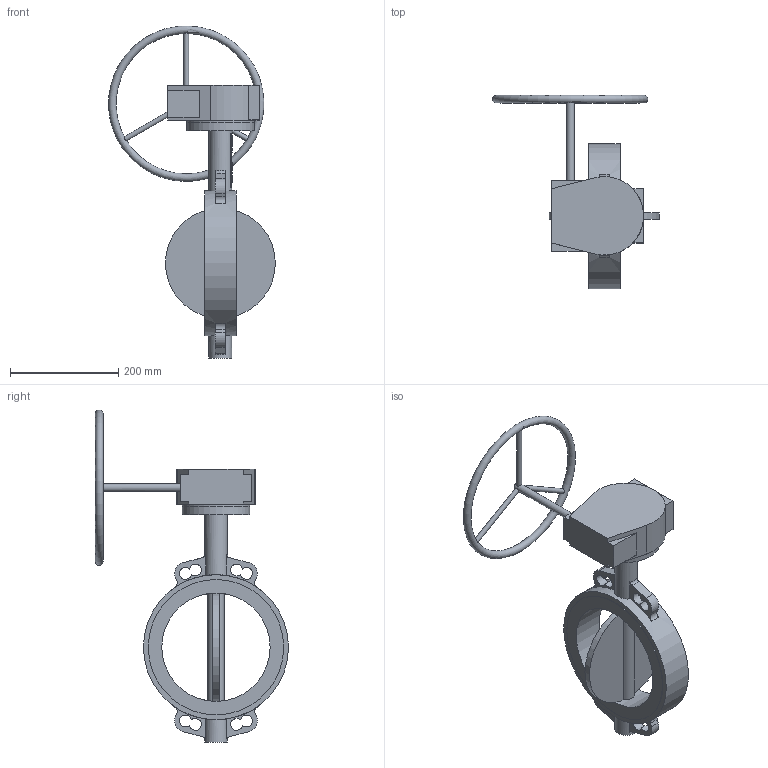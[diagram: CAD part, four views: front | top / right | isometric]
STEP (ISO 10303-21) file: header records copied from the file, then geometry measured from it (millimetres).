
FILE_DESCRIPTION(('STEP AP203'), '1');
FILE_NAME('青蜮铕 017WDN200 疱潴牝铕', '', ('UNSPECIFIED'), ('UNSPECIFIED'), 'ASCON STEP Converter 1.6', 'ASCON Math Kernel', '');
FILE_SCHEMA(('CONFIG_CONTROL_DESIGN'));
Length unit declared in the file: millimetre
Bounding box: 307.69 x 356.5 x 612.97 mm (x, y, z)
Volume: 1617788.3 mm3; surface area: 425241.9 mm2
Topology: 1 solids, 2 shells, 702 faces, 2046 edges, 1318 vertices
Faces by surface type: cylinder 497, plane 198, bspline 6, torus 1
Full cylindrical faces by diameter (mm): 8.5 x4, 9 x3, 12 x4, 14 x1, 22.1 x1, 42 x2, 70 x1, 125 x2, 200 x1, 250 x2, 268 x1
Entity records: 31980 total; most frequent: CARTESIAN_POINT 6924, DIRECTION 4416, ORIENTED_EDGE 3981, EDGE_CURVE 2022, AXIS2_PLACEMENT_3D 1741, VERTEX_POINT 1317, CIRCLE 1044, LINE 934
